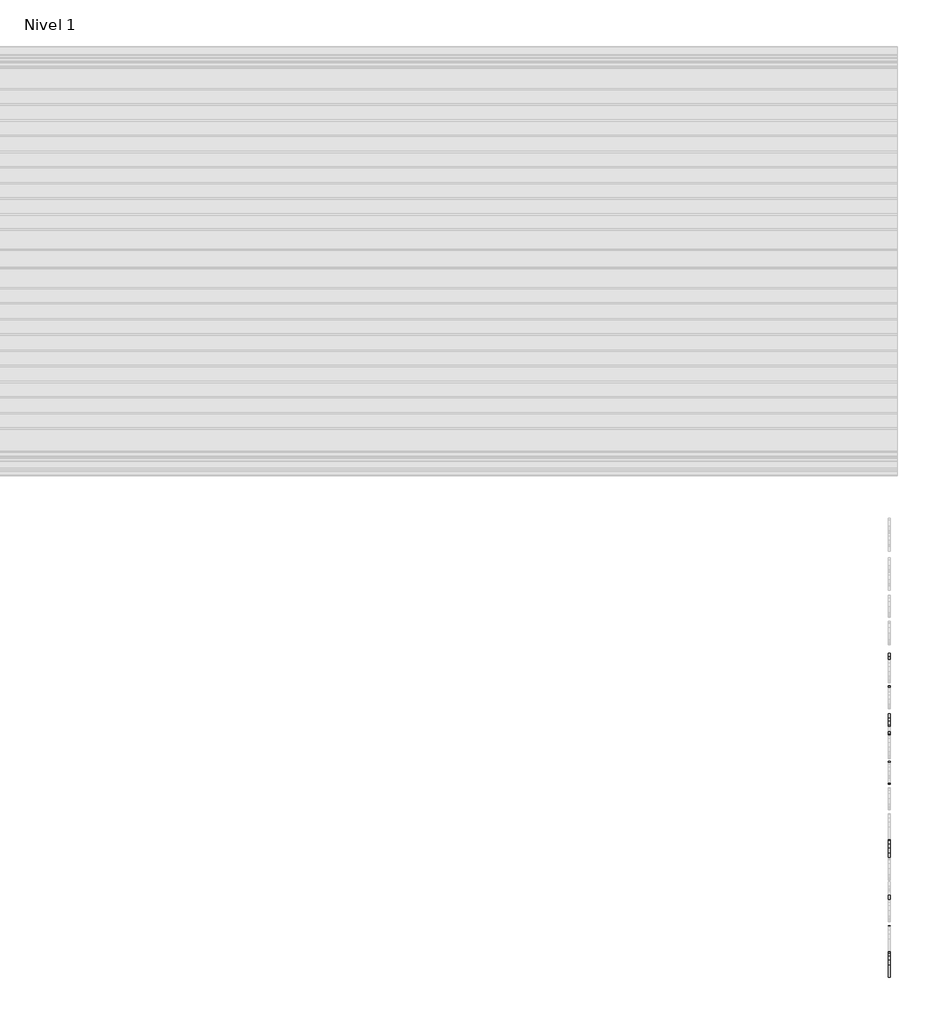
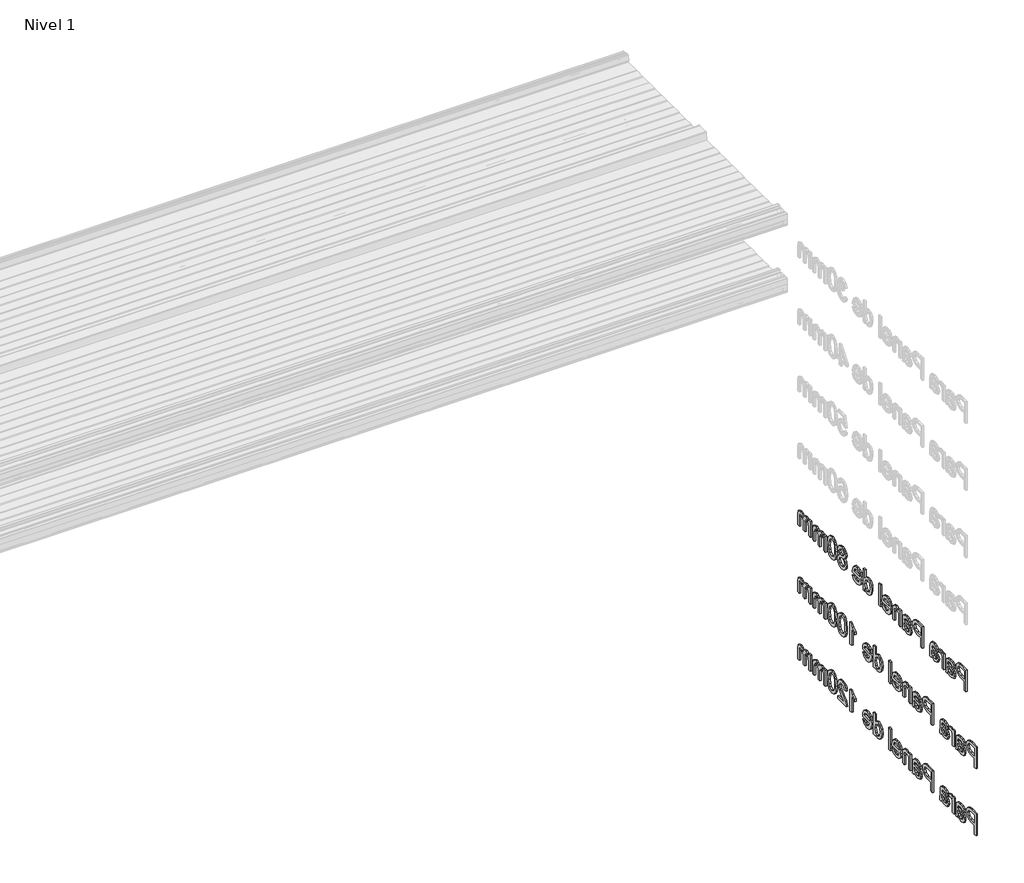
# One storey, part 3 of 3: 3 proxies.
"""IFC4 building model written with IfcOpenShell, lengths in millimetres."""

from ifc_helpers import new_model, si_unit, frame, origin, place, context, project, spatial, polyline, outline, extrude, element, save

model = new_model("IFC4")

# Units and contexts
model_context = context("Model", 3, world=origin())
ifc_project = project(units=[si_unit("LENGTHUNIT", "METRE", prefix="MILLI")], contexts=[model_context])

# Site, building, storey
site = spatial("IfcSite", under=ifc_project)
building = spatial("IfcBuilding", under=site)
storey = spatial("IfcBuildingStorey", under=building, Name="Nivel 1", Elevation=0.0)

# Proxies
placement = place(None, origin())
element("IfcBuildingElementProxy", 1, Name="100mm Arial", ObjectType="100mm Arial", at=placement, inside=storey, context=model_context, shape_type="SweptSolid", body=[
    extrude(outline(polyline([(14155.5279909, -1067.141573), (14155.5279909, -986.7765249), (14185.3117173, -986.7765249), (14197.3193856, -987.5417195), (14207.0805212, -991.2990209), (14213.4080915, -999.0686886), (14215.801777, -1010.026667), (14214.1855488, -1019.4984021), (14209.3368641, -1027.3906972), (14200.2697992, -1032.7176285), (14185.9984303, -1034.4932722), (14165.573622, -1034.4932722), (14165.573622, -1067.141573), (14155.5279909, -1067.141573)]), holes=[polyline([(14165.573622, -1024.4476412), (14186.5870415, -1024.4476412), (14201.3808028, -1020.7590111), (14205.756146, -1010.3798337), (14203.176067, -1002.0607955), (14196.3972281, -997.508869), (14186.351597, -996.8221559), (14165.573622, -996.8221559), (14165.573622, -1024.4476412)])]), frame((9557.0230098, 0.0, 0.0), z_axis=(1.0, 0.0, 0.0), x_axis=(0.0, 1.0, 0.0)), (0.0, 0.0, 1.0), 5.0),
    extrude(outline(polyline([(14266.0299321, -1059.6073498), (14256.2884169, -1066.4156192), (14245.5266422, -1068.3972769), (14230.9388949, -1063.6295263), (14225.847408, -1051.4452746), (14227.7702046, -1043.4990235), (14232.8224507, -1037.7306338), (14239.8563544, -1034.4344111), (14248.5481797, -1032.9236424), (14265.971071, -1029.4704567), (14266.0299321, -1027.2337342), (14263.2634595, -1019.8172332), (14252.1583283, -1016.913418), (14241.9949751, -1018.8460247), (14237.1487429, -1025.7033451), (14227.1031119, -1024.4476412), (14231.4490246, -1014.6374547), (14240.199711, -1008.8886854), (14253.453273, -1006.8677869), (14265.6277145, -1008.6532409), (14272.5046552, -1013.1364961), (14275.5850538, -1019.9545758), (14276.0755631, -1028.7445029), (14276.0755631, -1041.2426806), (14276.5856928, -1058.6950024), (14278.5869709, -1067.141573), (14268.5413399, -1067.141573), (14266.0299321, -1059.6073498)]), holes=[polyline([(14266.0299321, -1039.5160877), (14249.8235039, -1042.5964863), (14241.1807296, -1044.2249773), (14237.2664652, -1046.8737276), (14235.8930391, -1050.7389411), (14238.885146, -1056.1737845), (14247.6652629, -1058.3516459), (14257.8286162, -1055.9481502), (14264.3818208, -1050.1307096), (14265.971071, -1042.3610418), (14266.0299321, -1039.5160877)])]), frame((9557.0230098, 0.0, 0.0), z_axis=(1.0, 0.0, 0.0), x_axis=(0.0, 1.0, 0.0)), (0.0, 0.0, 1.0), 5.0),
    extrude(outline(polyline([(14289.8883058, -1067.141573), (14289.8883058, -1008.1234908), (14298.6782329, -1008.1234908), (14298.6782329, -1016.8545568), (14304.9175115, -1008.8102039), (14311.1960309, -1006.8677869), (14321.2809027, -1009.9678059), (14317.9258189, -1018.9735571), (14310.8624846, -1016.913418), (14305.1823866, -1018.8950756), (14301.5624277, -1024.3887801), (14299.9339368, -1036.1217632), (14299.9339368, -1067.141573), (14289.8883058, -1067.141573)])), frame((9557.0230098, 0.0, 0.0), z_axis=(1.0, 0.0, 0.0), x_axis=(0.0, 1.0, 0.0)), (0.0, 0.0, 1.0), 5.0),
    extrude(outline(polyline([(14365.2305384, -1059.6073498), (14355.4890231, -1066.4156192), (14344.7272485, -1068.3972769), (14330.1395011, -1063.6295263), (14325.0480143, -1051.4452746), (14326.9708109, -1043.4990235), (14332.023057, -1037.7306338), (14339.0569607, -1034.4344111), (14347.748786, -1032.9236424), (14365.1716773, -1029.4704567), (14365.2305384, -1027.2337342), (14362.4640658, -1019.8172332), (14351.3589346, -1016.913418), (14341.1955814, -1018.8460247), (14336.3493492, -1025.7033451), (14326.3037182, -1024.4476412), (14330.6496308, -1014.6374547), (14339.4003172, -1008.8886854), (14352.6538792, -1006.8677869), (14364.8283207, -1008.6532409), (14371.7052615, -1013.1364961), (14374.7856601, -1019.9545758), (14375.2761694, -1028.7445029), (14375.2761694, -1041.2426806), (14375.7862991, -1058.6950024), (14377.7875772, -1067.141573), (14367.7419461, -1067.141573), (14365.2305384, -1059.6073498)]), holes=[polyline([(14365.2305384, -1039.5160877), (14349.0241102, -1042.5964863), (14340.3813359, -1044.2249773), (14336.4670715, -1046.8737276), (14335.0936453, -1050.7389411), (14338.0857522, -1056.1737845), (14346.8658692, -1058.3516459), (14357.0292224, -1055.9481502), (14363.582427, -1050.1307096), (14365.1716773, -1042.3610418), (14365.2305384, -1039.5160877)])]), frame((9557.0230098, 0.0, 0.0), z_axis=(1.0, 0.0, 0.0), x_axis=(0.0, 1.0, 0.0)), (0.0, 0.0, 1.0), 5.0),
    extrude(outline(polyline([(14421.7372128, -1067.141573), (14421.7372128, -986.7765249), (14451.5209392, -986.7765249), (14463.5286075, -987.5417195), (14473.2897431, -991.2990209), (14479.6173134, -999.0686886), (14482.0109989, -1010.026667), (14480.3947707, -1019.4984021), (14475.546086, -1027.3906972), (14466.4790211, -1032.7176285), (14452.2076522, -1034.4932722), (14431.7828439, -1034.4932722), (14431.7828439, -1067.141573), (14421.7372128, -1067.141573)]), holes=[polyline([(14431.7828439, -1024.4476412), (14452.7962634, -1024.4476412), (14467.5900247, -1020.7590111), (14471.9653679, -1010.3798337), (14469.3852889, -1002.0607955), (14462.60645, -997.508869), (14452.5608189, -996.8221559), (14431.7828439, -996.8221559), (14431.7828439, -1024.4476412)])]), frame((9557.0230098, 0.0, 0.0), z_axis=(1.0, 0.0, 0.0), x_axis=(0.0, 1.0, 0.0)), (0.0, 0.0, 1.0), 5.0),
    extrude(outline(polyline([(14532.239154, -1059.6073498), (14522.4976388, -1066.4156192), (14511.7358641, -1068.3972769), (14497.1481168, -1063.6295263), (14492.0566299, -1051.4452746), (14493.9794265, -1043.4990235), (14499.0316726, -1037.7306338), (14506.0655763, -1034.4344111), (14514.7574016, -1032.9236424), (14532.1802929, -1029.4704567), (14532.239154, -1027.2337342), (14529.4726814, -1019.8172332), (14518.3675502, -1016.913418), (14508.204197, -1018.8460247), (14503.3579648, -1025.7033451), (14493.3123338, -1024.4476412), (14497.6582465, -1014.6374547), (14506.4089329, -1008.8886854), (14519.6624949, -1006.8677869), (14531.8369364, -1008.6532409), (14538.7138771, -1013.1364961), (14541.7942757, -1019.9545758), (14542.284785, -1028.7445029), (14542.284785, -1041.2426806), (14542.7949147, -1058.6950024), (14544.7961928, -1067.141573), (14534.7505618, -1067.141573), (14532.239154, -1059.6073498)]), holes=[polyline([(14532.239154, -1039.5160877), (14516.0327258, -1042.5964863), (14507.3899515, -1044.2249773), (14503.4756871, -1046.8737276), (14502.102261, -1050.7389411), (14505.0943679, -1056.1737845), (14513.8744848, -1058.3516459), (14524.0378381, -1055.9481502), (14530.5910427, -1050.1307096), (14532.1802929, -1042.3610418), (14532.239154, -1039.5160877)])]), frame((9557.0230098, 0.0, 0.0), z_axis=(1.0, 0.0, 0.0), x_axis=(0.0, 1.0, 0.0)), (0.0, 0.0, 1.0), 5.0),
    extrude(outline(polyline([(14556.0975277, -1067.141573), (14556.0975277, -1008.1234908), (14566.1431587, -1008.1234908), (14566.1431587, -1016.3640475), (14573.8245347, -1009.2418521), (14584.3116241, -1006.8677869), (14593.7980745, -1008.7807733), (14600.2727976, -1013.8035888), (14603.2845249, -1021.1906593), (14603.814275, -1030.902744), (14603.814275, -1067.141573), (14593.768644, -1067.141573), (14593.768644, -1032.2565497), (14592.611042, -1023.3685207), (14588.5201942, -1018.6694413), (14581.623633, -1016.913418), (14570.7245158, -1020.8571129), (14567.288498, -1026.5715466), (14566.1431587, -1035.8274576), (14566.1431587, -1067.141573), (14556.0975277, -1067.141573)])), frame((9557.0230098, 0.0, 0.0), z_axis=(1.0, 0.0, 0.0), x_axis=(0.0, 1.0, 0.0)), (0.0, 0.0, 1.0), 5.0),
    extrude(outline(polyline([(14658.9475233, -1049.5617188), (14668.7969506, -1050.8174226), (14659.5851855, -1063.7864892), (14642.4271692, -1068.3972769), (14630.6402301, -1066.4082616), (14621.5707126, -1060.4412156), (14615.7876077, -1050.8836414), (14613.859906, -1038.1230413), (14615.807228, -1024.9332455), (14621.6491941, -1015.0691029), (14630.5960842, -1008.9181159), (14641.8581784, -1006.8677869), (14652.7695584, -1008.9132108), (14661.4883616, -1015.0494825), (14667.2052478, -1024.8940047), (14669.1108766, -1038.0641801), (14669.0520155, -1040.7717916), (14623.905537, -1040.7717916), (14629.6837369, -1053.8193397), (14642.6233729, -1058.3516459), (14652.4728002, -1056.252266), (14658.9475233, -1049.5617188)]), holes=[polyline([(14623.905537, -1030.7261606), (14659.0652456, -1030.7261606), (14655.0430691, -1021.6223075), (14641.8189376, -1016.913418), (14629.4482924, -1020.6707194), (14623.905537, -1030.7261606)])]), frame((9557.0230098, 0.0, 0.0), z_axis=(1.0, 0.0, 0.0), x_axis=(0.0, 1.0, 0.0)), (0.0, 0.0, 1.0), 5.0),
    extrude(outline(polyline([(9562.0230098, 14689.2021386), (9562.0230098, 14679.1565076), (9557.0230098, 14679.1565076), (9557.0230098, 14689.2021386), (9562.0230098, 14689.2021386)])), frame((0.0, 0.0, -1067.141573), z_axis=(0.0, 0.0, 1.0), x_axis=(1.0, 0.0, 0.0)), (0.0, 0.0, 1.0), 80.3650481),
    extrude(outline(polyline([(14772.0785945, -1067.141573), (14772.0785945, -1057.6649328), (14765.4321931, -1065.7141909), (14756.2449534, -1068.3972769), (14743.8056369, -1064.512443), (14735.0157097, -1053.6721869), (14731.8960704, -1037.691393), (14734.7704551, -1021.700789), (14743.3837989, -1010.6937597), (14756.2057127, -1006.8677869), (14765.4665288, -1009.604829), (14772.0785945, -1016.7172142), (14772.0785945, -986.7765249), (14782.1242255, -986.7765249), (14782.1242255, -1067.141573), (14772.0785945, -1067.141573)]), holes=[polyline([(14741.9417014, -1037.6521523), (14746.4740076, -1053.201298), (14757.1671109, -1058.3516459), (14767.7326819, -1053.4367424), (14772.0785945, -1038.4173468), (14767.6542004, -1022.1128168), (14756.7550831, -1016.913418), (14746.179702, -1021.9068029), (14741.9417014, -1037.6521523)])]), frame((9557.0230098, 0.0, 0.0), z_axis=(1.0, 0.0, 0.0), x_axis=(0.0, 1.0, 0.0)), (0.0, 0.0, 1.0), 5.0),
    extrude(outline(polyline([(14838.5131777, -1049.5617188), (14848.362605, -1050.8174226), (14839.1508398, -1063.7864892), (14821.9928236, -1068.3972769), (14810.2058845, -1066.4082616), (14801.136367, -1060.4412156), (14795.353262, -1050.8836414), (14793.4255604, -1038.1230413), (14795.3728824, -1024.9332455), (14801.2148485, -1015.0691029), (14810.1617386, -1008.9181159), (14821.4238328, -1006.8677869), (14832.3352128, -1008.9132108), (14841.054016, -1015.0494825), (14846.7709022, -1024.8940047), (14848.676531, -1038.0641801), (14848.6176699, -1040.7717916), (14803.4711914, -1040.7717916), (14809.2493913, -1053.8193397), (14822.1890273, -1058.3516459), (14832.0384546, -1056.252266), (14838.5131777, -1049.5617188)]), holes=[polyline([(14803.4711914, -1030.7261606), (14838.6309, -1030.7261606), (14834.6087235, -1021.6223075), (14821.384592, -1016.913418), (14809.0139468, -1020.6707194), (14803.4711914, -1030.7261606)])]), frame((9557.0230098, 0.0, 0.0), z_axis=(1.0, 0.0, 0.0), x_axis=(0.0, 1.0, 0.0)), (0.0, 0.0, 1.0), 5.0),
    extrude(outline(polyline([(14902.2401495, -1022.8780114), (14893.0872454, -1016.6387327), (14890.1147589, -1006.9266481), (14891.7334397, -999.0735937), (14896.589482, -992.5841553), (14904.1384206, -988.2284325), (14913.83579, -986.7765249), (14923.5920205, -988.2627682), (14931.2390609, -992.721498), (14936.1833949, -999.3139433), (14937.8315062, -1007.2013333), (14934.8982605, -1016.6681633), (14926.0004213, -1022.8780114), (14936.6837144, -1030.7555912), (14940.342914, -1043.7540883), (14938.5280295, -1053.3582609), (14933.083376, -1061.2947019), (14924.6760461, -1066.6216331), (14913.9731326, -1068.3972769), (14903.2702191, -1066.6142755), (14894.8628892, -1061.2652713), (14889.4182357, -1053.2528014), (14887.6033512, -1043.4794031), (14891.4097035, -1030.1767902), (14902.2401495, -1022.8780114)]), holes=[polyline([(14897.6489822, -1043.1262364), (14899.3265241, -1050.6898902), (14905.2616869, -1056.3503678), (14914.0516141, -1058.3516459), (14926.0200416, -1054.1430759), (14930.297283, -1043.4401624), (14925.882699, -1032.5312349), (14913.7180677, -1028.2147528), (14901.8967929, -1032.4723738), (14897.6489822, -1043.1262364)]), polyline([(14900.1603899, -1007.2209537), (14903.7214876, -1015.1083436), (14914.0908548, -1018.1691218), (14924.2542081, -1015.127964), (14927.7858752, -1007.6722222), (14924.1364858, -999.9516054), (14913.9731326, -996.8221559), (14903.7803488, -999.8829341), (14900.1603899, -1007.2209537)])]), frame((9557.0230098, 0.0, 0.0), z_axis=(1.0, 0.0, 0.0), x_axis=(0.0, 1.0, 0.0)), (0.0, 0.0, 1.0), 5.0),
    extrude(outline(polyline([(14949.1328411, -1027.6065213), (14952.0857073, -1004.4839116), (14960.856014, -991.1518681), (14975.5026225, -986.7765249), (14987.2356056, -989.3664142), (14995.3388197, -996.8319661), (15000.0477093, -1008.7219122), (15001.872404, -1027.6065213), (14998.9489684, -1050.6310291), (14990.2080922, -1063.9925032), (14975.5026225, -1068.3972769), (14965.0645841, -1066.4842905), (14957.1379533, -1060.7453314), (14951.1341192, -1047.153318), (14949.1328411, -1027.6065213)]), holes=[polyline([(14959.1784721, -1027.5869009), (14960.3556945, -1043.3886589), (14963.8873617, -1052.5342053), (14975.5026225, -1058.3516459), (14987.1178834, -1052.5145849), (14990.6495506, -1043.3641334), (14991.8267729, -1027.5869009), (14990.6887913, -1012.1407622), (14987.2748464, -1002.924092), (14982.0263966, -998.3476399), (14975.3849003, -996.8221559), (14964.0443247, -1002.1981381), (14960.3949353, -1011.9887043), (14959.1784721, -1027.5869009)])]), frame((9557.0230098, 0.0, 0.0), z_axis=(1.0, 0.0, 0.0), x_axis=(0.0, 1.0, 0.0)), (0.0, 0.0, 1.0), 5.0),
    extrude(outline(polyline([(15013.1737388, -1067.141573), (15013.1737388, -1008.1234908), (15023.2193699, -1008.1234908), (15023.2193699, -1017.8355755), (15030.1257412, -1009.8795142), (15039.9555481, -1006.8677869), (15050.0207995, -1009.9383753), (15055.5537447, -1018.5419089), (15063.3920837, -1009.7863174), (15073.290562, -1006.8677869), (15086.4264017, -1011.7238293), (15091.0273792, -1026.6843637), (15091.0273792, -1067.141573), (15080.9817482, -1067.141573), (15080.9817482, -1031.0008458), (15080.0497805, -1022.6131363), (15076.6750763, -1018.4830478), (15070.9361172, -1016.913418), (15061.0572593, -1020.9355944), (15057.1233745, -1033.8261795), (15057.1233745, -1067.141573), (15047.0777435, -1067.141573), (15047.0777435, -1029.8824846), (15044.7527293, -1020.1507795), (15037.1302144, -1016.913418), (15029.694093, -1019.071659), (15024.749759, -1025.3894191), (15023.2193699, -1037.3774671), (15023.2193699, -1067.141573), (15013.1737388, -1067.141573)])), frame((9557.0230098, 0.0, 0.0), z_axis=(1.0, 0.0, 0.0), x_axis=(0.0, 1.0, 0.0)), (0.0, 0.0, 1.0), 5.0),
    extrude(outline(polyline([(15106.0958257, -1067.141573), (15106.0958257, -1008.1234908), (15116.1414568, -1008.1234908), (15116.1414568, -1017.8355755), (15123.0478281, -1009.8795142), (15132.877635, -1006.8677869), (15142.9428864, -1009.9383753), (15148.4758316, -1018.5419089), (15156.3141706, -1009.7863174), (15166.2126488, -1006.8677869), (15179.3484886, -1011.7238293), (15183.9494661, -1026.6843637), (15183.9494661, -1067.141573), (15173.9038351, -1067.141573), (15173.9038351, -1031.0008458), (15172.9718674, -1022.6131363), (15169.5971632, -1018.4830478), (15163.8582041, -1016.913418), (15153.9793462, -1020.9355944), (15150.0454614, -1033.8261795), (15150.0454614, -1067.141573), (15139.9998304, -1067.141573), (15139.9998304, -1029.8824846), (15137.6748162, -1020.1507795), (15130.0523013, -1016.913418), (15122.6161799, -1019.071659), (15117.6718458, -1025.3894191), (15116.1414568, -1037.3774671), (15116.1414568, -1067.141573), (15106.0958257, -1067.141573)])), frame((9557.0230098, 0.0, 0.0), z_axis=(1.0, 0.0, 0.0), x_axis=(0.0, 1.0, 0.0)), (0.0, 0.0, 1.0), 5.0),
])
element("IfcBuildingElementProxy", 2, Name="100mm Arial", ObjectType="100mm Arial", at=placement, inside=storey, context=model_context, shape_type="SweptSolid", body=[
    extrude(outline(polyline([(14093.998501, -1317.141573), (14093.998501, -1236.7765249), (14123.7822273, -1236.7765249), (14135.7898956, -1237.5417195), (14145.5510312, -1241.2990209), (14151.8786016, -1249.0686886), (14154.2722871, -1260.026667), (14152.6560588, -1269.4984021), (14147.8073741, -1277.3906972), (14138.7403092, -1282.7176285), (14124.4689404, -1284.4932722), (14104.044132, -1284.4932722), (14104.044132, -1317.141573), (14093.998501, -1317.141573)]), holes=[polyline([(14104.044132, -1274.4476412), (14125.0575516, -1274.4476412), (14139.8513129, -1270.7590111), (14144.2266561, -1260.3798337), (14141.646577, -1252.0607955), (14134.8677381, -1247.508869), (14124.8221071, -1246.8221559), (14104.044132, -1246.8221559), (14104.044132, -1274.4476412)])]), frame((9557.0230098, 0.0, 0.0), z_axis=(1.0, 0.0, 0.0), x_axis=(0.0, 1.0, 0.0)), (0.0, 0.0, 1.0), 5.0),
    extrude(outline(polyline([(14204.5004421, -1309.6073498), (14194.7589269, -1316.4156192), (14183.9971523, -1318.3972769), (14169.4094049, -1313.6295263), (14164.3179181, -1301.4452746), (14166.2407146, -1293.4990235), (14171.2929607, -1287.7306338), (14178.3268645, -1284.4344111), (14187.0186897, -1282.9236424), (14204.441581, -1279.4704567), (14204.5004421, -1277.2337342), (14201.7339695, -1269.8172332), (14190.6288384, -1266.913418), (14180.4654851, -1268.8460247), (14175.619253, -1275.7033451), (14165.573622, -1274.4476412), (14169.9195346, -1264.6374547), (14178.670221, -1258.8886854), (14191.923783, -1256.8677869), (14204.0982245, -1258.6532409), (14210.9751653, -1263.1364961), (14214.0555638, -1269.9545758), (14214.5460732, -1278.7445029), (14214.5460732, -1291.2426806), (14215.0562029, -1308.6950024), (14217.0574809, -1317.141573), (14207.0118499, -1317.141573), (14204.5004421, -1309.6073498)]), holes=[polyline([(14204.5004421, -1289.5160877), (14188.294014, -1292.5964863), (14179.6512396, -1294.2249773), (14175.7369752, -1296.8737276), (14174.3635491, -1300.7389411), (14177.355656, -1306.1737845), (14186.1357729, -1308.3516459), (14196.2991262, -1305.9481502), (14202.8523308, -1300.1307096), (14204.441581, -1292.3610418), (14204.5004421, -1289.5160877)])]), frame((9557.0230098, 0.0, 0.0), z_axis=(1.0, 0.0, 0.0), x_axis=(0.0, 1.0, 0.0)), (0.0, 0.0, 1.0), 5.0),
    extrude(outline(polyline([(14228.3588158, -1317.141573), (14228.3588158, -1258.1234908), (14237.1487429, -1258.1234908), (14237.1487429, -1266.8545568), (14243.3880216, -1258.8102039), (14249.666541, -1256.8677869), (14259.7514127, -1259.9678059), (14256.3963289, -1268.9735571), (14249.3329946, -1266.913418), (14243.6528966, -1268.8950756), (14240.0329378, -1274.3887801), (14238.4044468, -1286.1217632), (14238.4044468, -1317.141573), (14228.3588158, -1317.141573)])), frame((9557.0230098, 0.0, 0.0), z_axis=(1.0, 0.0, 0.0), x_axis=(0.0, 1.0, 0.0)), (0.0, 0.0, 1.0), 5.0),
    extrude(outline(polyline([(14303.7010484, -1309.6073498), (14293.9595332, -1316.4156192), (14283.1977586, -1318.3972769), (14268.6100112, -1313.6295263), (14263.5185244, -1301.4452746), (14265.4413209, -1293.4990235), (14270.493567, -1287.7306338), (14277.5274707, -1284.4344111), (14286.219296, -1282.9236424), (14303.6421873, -1279.4704567), (14303.7010484, -1277.2337342), (14300.9345758, -1269.8172332), (14289.8294447, -1266.913418), (14279.6660914, -1268.8460247), (14274.8198592, -1275.7033451), (14264.7742282, -1274.4476412), (14269.1201409, -1264.6374547), (14277.8708273, -1258.8886854), (14291.1243893, -1256.8677869), (14303.2988308, -1258.6532409), (14310.1757715, -1263.1364961), (14313.2561701, -1269.9545758), (14313.7466794, -1278.7445029), (14313.7466794, -1291.2426806), (14314.2568091, -1308.6950024), (14316.2580872, -1317.141573), (14306.2124562, -1317.141573), (14303.7010484, -1309.6073498)]), holes=[polyline([(14303.7010484, -1289.5160877), (14287.4946203, -1292.5964863), (14278.8518459, -1294.2249773), (14274.9375815, -1296.8737276), (14273.5641554, -1300.7389411), (14276.5562623, -1306.1737845), (14285.3363792, -1308.3516459), (14295.4997325, -1305.9481502), (14302.0529371, -1300.1307096), (14303.6421873, -1292.3610418), (14303.7010484, -1289.5160877)])]), frame((9557.0230098, 0.0, 0.0), z_axis=(1.0, 0.0, 0.0), x_axis=(0.0, 1.0, 0.0)), (0.0, 0.0, 1.0), 5.0),
    extrude(outline(polyline([(14360.2077229, -1317.141573), (14360.2077229, -1236.7765249), (14389.9914492, -1236.7765249), (14401.9991175, -1237.5417195), (14411.7602531, -1241.2990209), (14418.0878234, -1249.0686886), (14420.481509, -1260.026667), (14418.8652807, -1269.4984021), (14414.016596, -1277.3906972), (14404.9495311, -1282.7176285), (14390.6781623, -1284.4932722), (14370.2533539, -1284.4932722), (14370.2533539, -1317.141573), (14360.2077229, -1317.141573)]), holes=[polyline([(14370.2533539, -1274.4476412), (14391.2667735, -1274.4476412), (14406.0605348, -1270.7590111), (14410.4358779, -1260.3798337), (14407.8557989, -1252.0607955), (14401.07696, -1247.508869), (14391.031329, -1246.8221559), (14370.2533539, -1246.8221559), (14370.2533539, -1274.4476412)])]), frame((9557.0230098, 0.0, 0.0), z_axis=(1.0, 0.0, 0.0), x_axis=(0.0, 1.0, 0.0)), (0.0, 0.0, 1.0), 5.0),
    extrude(outline(polyline([(14470.709664, -1309.6073498), (14460.9681488, -1316.4156192), (14450.2063742, -1318.3972769), (14435.6186268, -1313.6295263), (14430.52714, -1301.4452746), (14432.4499365, -1293.4990235), (14437.5021826, -1287.7306338), (14444.5360864, -1284.4344111), (14453.2279116, -1282.9236424), (14470.6508029, -1279.4704567), (14470.709664, -1277.2337342), (14467.9431914, -1269.8172332), (14456.8380603, -1266.913418), (14446.674707, -1268.8460247), (14441.8284749, -1275.7033451), (14431.7828439, -1274.4476412), (14436.1287565, -1264.6374547), (14444.8794429, -1258.8886854), (14458.1330049, -1256.8677869), (14470.3074464, -1258.6532409), (14477.1843872, -1263.1364961), (14480.2647857, -1269.9545758), (14480.7552951, -1278.7445029), (14480.7552951, -1291.2426806), (14481.2654248, -1308.6950024), (14483.2667028, -1317.141573), (14473.2210718, -1317.141573), (14470.709664, -1309.6073498)]), holes=[polyline([(14470.709664, -1289.5160877), (14454.5032359, -1292.5964863), (14445.8604615, -1294.2249773), (14441.9461971, -1296.8737276), (14440.572771, -1300.7389411), (14443.5648779, -1306.1737845), (14452.3449948, -1308.3516459), (14462.5083481, -1305.9481502), (14469.0615527, -1300.1307096), (14470.6508029, -1292.3610418), (14470.709664, -1289.5160877)])]), frame((9557.0230098, 0.0, 0.0), z_axis=(1.0, 0.0, 0.0), x_axis=(0.0, 1.0, 0.0)), (0.0, 0.0, 1.0), 5.0),
    extrude(outline(polyline([(14494.5680377, -1317.141573), (14494.5680377, -1258.1234908), (14504.6136687, -1258.1234908), (14504.6136687, -1266.3640475), (14512.2950448, -1259.2418521), (14522.7821342, -1256.8677869), (14532.2685846, -1258.7807733), (14538.7433077, -1263.8035888), (14541.7550349, -1271.1906593), (14542.284785, -1280.902744), (14542.284785, -1317.141573), (14532.239154, -1317.141573), (14532.239154, -1282.2565497), (14531.081552, -1273.3685207), (14526.9907042, -1268.6694413), (14520.0941431, -1266.913418), (14509.1950258, -1270.8571129), (14505.759008, -1276.5715466), (14504.6136687, -1285.8274576), (14504.6136687, -1317.141573), (14494.5680377, -1317.141573)])), frame((9557.0230098, 0.0, 0.0), z_axis=(1.0, 0.0, 0.0), x_axis=(0.0, 1.0, 0.0)), (0.0, 0.0, 1.0), 5.0),
    extrude(outline(polyline([(14597.4180334, -1299.5617188), (14607.2674606, -1300.8174226), (14598.0556955, -1313.7864892), (14580.8976792, -1318.3972769), (14569.1107401, -1316.4082616), (14560.0412227, -1310.4412156), (14554.2581177, -1300.8836414), (14552.330416, -1288.1230413), (14554.2777381, -1274.9332455), (14560.1197041, -1265.0691029), (14569.0665943, -1258.9181159), (14580.3286884, -1256.8677869), (14591.2400684, -1258.9132108), (14599.9588717, -1265.0494825), (14605.6757579, -1274.8940047), (14607.5813866, -1288.0641801), (14607.5225255, -1290.7717916), (14562.3760471, -1290.7717916), (14568.1542469, -1303.8193397), (14581.093883, -1308.3516459), (14590.9433102, -1306.252266), (14597.4180334, -1299.5617188)]), holes=[polyline([(14562.3760471, -1280.7261606), (14597.5357556, -1280.7261606), (14593.5135791, -1271.6223075), (14580.2894477, -1266.913418), (14567.9188024, -1270.6707194), (14562.3760471, -1280.7261606)])]), frame((9557.0230098, 0.0, 0.0), z_axis=(1.0, 0.0, 0.0), x_axis=(0.0, 1.0, 0.0)), (0.0, 0.0, 1.0), 5.0),
    extrude(outline(polyline([(9562.0230098, 14627.6726486), (9562.0230098, 14617.6270176), (9557.0230098, 14617.6270176), (9557.0230098, 14627.6726486), (9562.0230098, 14627.6726486)])), frame((0.0, 0.0, -1317.141573), z_axis=(0.0, 0.0, 1.0), x_axis=(1.0, 0.0, 0.0)), (0.0, 0.0, 1.0), 80.3650481),
    extrude(outline(polyline([(14710.5491045, -1317.141573), (14710.5491045, -1307.6649328), (14703.9027031, -1315.7141909), (14694.7154634, -1318.3972769), (14682.2761469, -1314.512443), (14673.4862198, -1303.6721869), (14670.3665805, -1287.691393), (14673.2409651, -1271.700789), (14681.8543089, -1260.6937597), (14694.6762227, -1256.8677869), (14703.9370388, -1259.604829), (14710.5491045, -1266.7172142), (14710.5491045, -1236.7765249), (14720.5947355, -1236.7765249), (14720.5947355, -1317.141573), (14710.5491045, -1317.141573)]), holes=[polyline([(14680.4122115, -1287.6521523), (14684.9445177, -1303.201298), (14695.637621, -1308.3516459), (14706.2031919, -1303.4367424), (14710.5491045, -1288.4173468), (14706.1247104, -1272.1128168), (14695.2255931, -1266.913418), (14684.6502121, -1271.9068029), (14680.4122115, -1287.6521523)])]), frame((9557.0230098, 0.0, 0.0), z_axis=(1.0, 0.0, 0.0), x_axis=(0.0, 1.0, 0.0)), (0.0, 0.0, 1.0), 5.0),
    extrude(outline(polyline([(14776.9836878, -1299.5617188), (14786.833115, -1300.8174226), (14777.6213499, -1313.7864892), (14760.4633336, -1318.3972769), (14748.6763945, -1316.4082616), (14739.606877, -1310.4412156), (14733.8237721, -1300.8836414), (14731.8960704, -1288.1230413), (14733.8433925, -1274.9332455), (14739.6853585, -1265.0691029), (14748.6322487, -1258.9181159), (14759.8943428, -1256.8677869), (14770.8057228, -1258.9132108), (14779.5245261, -1265.0494825), (14785.2414123, -1274.8940047), (14787.147041, -1288.0641801), (14787.0881799, -1290.7717916), (14741.9417014, -1290.7717916), (14747.7199013, -1303.8193397), (14760.6595374, -1308.3516459), (14770.5089646, -1306.252266), (14776.9836878, -1299.5617188)]), holes=[polyline([(14741.9417014, -1280.7261606), (14777.10141, -1280.7261606), (14773.0792335, -1271.6223075), (14759.8551021, -1266.913418), (14747.4844568, -1270.6707194), (14741.9417014, -1280.7261606)])]), frame((9557.0230098, 0.0, 0.0), z_axis=(1.0, 0.0, 0.0), x_axis=(0.0, 1.0, 0.0)), (0.0, 0.0, 1.0), 5.0),
    extrude(outline(polyline([(14863.7449775, -1317.141573), (14853.6993465, -1317.141573), (14853.6993465, -1254.5133422), (14844.1834655, -1261.2921811), (14833.6080845, -1266.3640475), (14833.6080845, -1256.8677869), (14848.3331744, -1247.4696282), (14857.2702544, -1236.7765249), (14863.7449775, -1236.7765249), (14863.7449775, -1317.141573)])), frame((9557.0230098, 0.0, 0.0), z_axis=(1.0, 0.0, 0.0), x_axis=(0.0, 1.0, 0.0)), (0.0, 0.0, 1.0), 5.0),
    extrude(outline(polyline([(14887.6033512, -1277.6065213), (14890.5562173, -1254.4839116), (14899.3265241, -1241.1518681), (14913.9731326, -1236.7765249), (14925.7061157, -1239.3664142), (14933.8093298, -1246.8319661), (14938.5182193, -1258.7219122), (14940.342914, -1277.6065213), (14937.4194784, -1300.6310291), (14928.6786022, -1313.9925032), (14913.9731326, -1318.3972769), (14903.5350941, -1316.4842905), (14895.6084634, -1310.7453314), (14889.6046292, -1297.153318), (14887.6033512, -1277.6065213)]), holes=[polyline([(14897.6489822, -1277.5869009), (14898.8262046, -1293.3886589), (14902.3578717, -1302.5342053), (14913.9731326, -1308.3516459), (14925.5883934, -1302.5145849), (14929.1200606, -1293.3641334), (14930.297283, -1277.5869009), (14929.1593013, -1262.1407622), (14925.7453564, -1252.924092), (14920.4969066, -1248.3476399), (14913.8554103, -1246.8221559), (14902.5148347, -1252.1981381), (14898.8654453, -1261.9887043), (14897.6489822, -1277.5869009)])]), frame((9557.0230098, 0.0, 0.0), z_axis=(1.0, 0.0, 0.0), x_axis=(0.0, 1.0, 0.0)), (0.0, 0.0, 1.0), 5.0),
    extrude(outline(polyline([(14949.1328411, -1277.6065213), (14952.0857073, -1254.4839116), (14960.856014, -1241.1518681), (14975.5026225, -1236.7765249), (14987.2356056, -1239.3664142), (14995.3388197, -1246.8319661), (15000.0477093, -1258.7219122), (15001.872404, -1277.6065213), (14998.9489684, -1300.6310291), (14990.2080922, -1313.9925032), (14975.5026225, -1318.3972769), (14965.0645841, -1316.4842905), (14957.1379533, -1310.7453314), (14951.1341192, -1297.153318), (14949.1328411, -1277.6065213)]), holes=[polyline([(14959.1784721, -1277.5869009), (14960.3556945, -1293.3886589), (14963.8873617, -1302.5342053), (14975.5026225, -1308.3516459), (14987.1178834, -1302.5145849), (14990.6495506, -1293.3641334), (14991.8267729, -1277.5869009), (14990.6887913, -1262.1407622), (14987.2748464, -1252.924092), (14982.0263966, -1248.3476399), (14975.3849003, -1246.8221559), (14964.0443247, -1252.1981381), (14960.3949353, -1261.9887043), (14959.1784721, -1277.5869009)])]), frame((9557.0230098, 0.0, 0.0), z_axis=(1.0, 0.0, 0.0), x_axis=(0.0, 1.0, 0.0)), (0.0, 0.0, 1.0), 5.0),
    extrude(outline(polyline([(15013.1737388, -1317.141573), (15013.1737388, -1258.1234908), (15023.2193699, -1258.1234908), (15023.2193699, -1267.8355755), (15030.1257412, -1259.8795142), (15039.9555481, -1256.8677869), (15050.0207995, -1259.9383753), (15055.5537447, -1268.5419089), (15063.3920837, -1259.7863174), (15073.290562, -1256.8677869), (15086.4264017, -1261.7238293), (15091.0273792, -1276.6843637), (15091.0273792, -1317.141573), (15080.9817482, -1317.141573), (15080.9817482, -1281.0008458), (15080.0497805, -1272.6131363), (15076.6750763, -1268.4830478), (15070.9361172, -1266.913418), (15061.0572593, -1270.9355944), (15057.1233745, -1283.8261795), (15057.1233745, -1317.141573), (15047.0777435, -1317.141573), (15047.0777435, -1279.8824846), (15044.7527293, -1270.1507795), (15037.1302144, -1266.913418), (15029.694093, -1269.071659), (15024.749759, -1275.3894191), (15023.2193699, -1287.3774671), (15023.2193699, -1317.141573), (15013.1737388, -1317.141573)])), frame((9557.0230098, 0.0, 0.0), z_axis=(1.0, 0.0, 0.0), x_axis=(0.0, 1.0, 0.0)), (0.0, 0.0, 1.0), 5.0),
    extrude(outline(polyline([(15106.0958257, -1317.141573), (15106.0958257, -1258.1234908), (15116.1414568, -1258.1234908), (15116.1414568, -1267.8355755), (15123.0478281, -1259.8795142), (15132.877635, -1256.8677869), (15142.9428864, -1259.9383753), (15148.4758316, -1268.5419089), (15156.3141706, -1259.7863174), (15166.2126488, -1256.8677869), (15179.3484886, -1261.7238293), (15183.9494661, -1276.6843637), (15183.9494661, -1317.141573), (15173.9038351, -1317.141573), (15173.9038351, -1281.0008458), (15172.9718674, -1272.6131363), (15169.5971632, -1268.4830478), (15163.8582041, -1266.913418), (15153.9793462, -1270.9355944), (15150.0454614, -1283.8261795), (15150.0454614, -1317.141573), (15139.9998304, -1317.141573), (15139.9998304, -1279.8824846), (15137.6748162, -1270.1507795), (15130.0523013, -1266.913418), (15122.6161799, -1269.071659), (15117.6718458, -1275.3894191), (15116.1414568, -1287.3774671), (15116.1414568, -1317.141573), (15106.0958257, -1317.141573)])), frame((9557.0230098, 0.0, 0.0), z_axis=(1.0, 0.0, 0.0), x_axis=(0.0, 1.0, 0.0)), (0.0, 0.0, 1.0), 5.0),
])
element("IfcBuildingElementProxy", 3, Name="100mm Arial", ObjectType="100mm Arial", at=placement, inside=storey, context=model_context, shape_type="SweptSolid", body=[
    extrude(outline(polyline([(14093.998501, -1567.141573), (14093.998501, -1486.7765249), (14123.7822273, -1486.7765249), (14135.7898956, -1487.5417195), (14145.5510312, -1491.2990209), (14151.8786016, -1499.0686886), (14154.2722871, -1510.026667), (14152.6560588, -1519.4984021), (14147.8073741, -1527.3906972), (14138.7403092, -1532.7176285), (14124.4689404, -1534.4932722), (14104.044132, -1534.4932722), (14104.044132, -1567.141573), (14093.998501, -1567.141573)]), holes=[polyline([(14104.044132, -1524.4476412), (14125.0575516, -1524.4476412), (14139.8513129, -1520.7590111), (14144.2266561, -1510.3798337), (14141.646577, -1502.0607955), (14134.8677381, -1497.508869), (14124.8221071, -1496.8221559), (14104.044132, -1496.8221559), (14104.044132, -1524.4476412)])]), frame((9557.0230098, 0.0, 0.0), z_axis=(1.0, 0.0, 0.0), x_axis=(0.0, 1.0, 0.0)), (0.0, 0.0, 1.0), 5.0),
    extrude(outline(polyline([(14204.5004421, -1559.6073498), (14194.7589269, -1566.4156192), (14183.9971523, -1568.3972769), (14169.4094049, -1563.6295263), (14164.3179181, -1551.4452746), (14166.2407146, -1543.4990235), (14171.2929607, -1537.7306338), (14178.3268645, -1534.4344111), (14187.0186897, -1532.9236424), (14204.441581, -1529.4704567), (14204.5004421, -1527.2337342), (14201.7339695, -1519.8172332), (14190.6288384, -1516.913418), (14180.4654851, -1518.8460247), (14175.619253, -1525.7033451), (14165.573622, -1524.4476412), (14169.9195346, -1514.6374547), (14178.670221, -1508.8886854), (14191.923783, -1506.8677869), (14204.0982245, -1508.6532409), (14210.9751653, -1513.1364961), (14214.0555638, -1519.9545758), (14214.5460732, -1528.7445029), (14214.5460732, -1541.2426806), (14215.0562029, -1558.6950024), (14217.0574809, -1567.141573), (14207.0118499, -1567.141573), (14204.5004421, -1559.6073498)]), holes=[polyline([(14204.5004421, -1539.5160877), (14188.294014, -1542.5964863), (14179.6512396, -1544.2249773), (14175.7369752, -1546.8737276), (14174.3635491, -1550.7389411), (14177.355656, -1556.1737845), (14186.1357729, -1558.3516459), (14196.2991262, -1555.9481502), (14202.8523308, -1550.1307096), (14204.441581, -1542.3610418), (14204.5004421, -1539.5160877)])]), frame((9557.0230098, 0.0, 0.0), z_axis=(1.0, 0.0, 0.0), x_axis=(0.0, 1.0, 0.0)), (0.0, 0.0, 1.0), 5.0),
    extrude(outline(polyline([(14228.3588158, -1567.141573), (14228.3588158, -1508.1234908), (14237.1487429, -1508.1234908), (14237.1487429, -1516.8545568), (14243.3880216, -1508.8102039), (14249.666541, -1506.8677869), (14259.7514127, -1509.9678059), (14256.3963289, -1518.9735571), (14249.3329946, -1516.913418), (14243.6528966, -1518.8950756), (14240.0329378, -1524.3887801), (14238.4044468, -1536.1217632), (14238.4044468, -1567.141573), (14228.3588158, -1567.141573)])), frame((9557.0230098, 0.0, 0.0), z_axis=(1.0, 0.0, 0.0), x_axis=(0.0, 1.0, 0.0)), (0.0, 0.0, 1.0), 5.0),
    extrude(outline(polyline([(14303.7010484, -1559.6073498), (14293.9595332, -1566.4156192), (14283.1977586, -1568.3972769), (14268.6100112, -1563.6295263), (14263.5185244, -1551.4452746), (14265.4413209, -1543.4990235), (14270.493567, -1537.7306338), (14277.5274707, -1534.4344111), (14286.219296, -1532.9236424), (14303.6421873, -1529.4704567), (14303.7010484, -1527.2337342), (14300.9345758, -1519.8172332), (14289.8294447, -1516.913418), (14279.6660914, -1518.8460247), (14274.8198592, -1525.7033451), (14264.7742282, -1524.4476412), (14269.1201409, -1514.6374547), (14277.8708273, -1508.8886854), (14291.1243893, -1506.8677869), (14303.2988308, -1508.6532409), (14310.1757715, -1513.1364961), (14313.2561701, -1519.9545758), (14313.7466794, -1528.7445029), (14313.7466794, -1541.2426806), (14314.2568091, -1558.6950024), (14316.2580872, -1567.141573), (14306.2124562, -1567.141573), (14303.7010484, -1559.6073498)]), holes=[polyline([(14303.7010484, -1539.5160877), (14287.4946203, -1542.5964863), (14278.8518459, -1544.2249773), (14274.9375815, -1546.8737276), (14273.5641554, -1550.7389411), (14276.5562623, -1556.1737845), (14285.3363792, -1558.3516459), (14295.4997325, -1555.9481502), (14302.0529371, -1550.1307096), (14303.6421873, -1542.3610418), (14303.7010484, -1539.5160877)])]), frame((9557.0230098, 0.0, 0.0), z_axis=(1.0, 0.0, 0.0), x_axis=(0.0, 1.0, 0.0)), (0.0, 0.0, 1.0), 5.0),
    extrude(outline(polyline([(14360.2077229, -1567.141573), (14360.2077229, -1486.7765249), (14389.9914492, -1486.7765249), (14401.9991175, -1487.5417195), (14411.7602531, -1491.2990209), (14418.0878234, -1499.0686886), (14420.481509, -1510.026667), (14418.8652807, -1519.4984021), (14414.016596, -1527.3906972), (14404.9495311, -1532.7176285), (14390.6781623, -1534.4932722), (14370.2533539, -1534.4932722), (14370.2533539, -1567.141573), (14360.2077229, -1567.141573)]), holes=[polyline([(14370.2533539, -1524.4476412), (14391.2667735, -1524.4476412), (14406.0605348, -1520.7590111), (14410.4358779, -1510.3798337), (14407.8557989, -1502.0607955), (14401.07696, -1497.508869), (14391.031329, -1496.8221559), (14370.2533539, -1496.8221559), (14370.2533539, -1524.4476412)])]), frame((9557.0230098, 0.0, 0.0), z_axis=(1.0, 0.0, 0.0), x_axis=(0.0, 1.0, 0.0)), (0.0, 0.0, 1.0), 5.0),
    extrude(outline(polyline([(14470.709664, -1559.6073498), (14460.9681488, -1566.4156192), (14450.2063742, -1568.3972769), (14435.6186268, -1563.6295263), (14430.52714, -1551.4452746), (14432.4499365, -1543.4990235), (14437.5021826, -1537.7306338), (14444.5360864, -1534.4344111), (14453.2279116, -1532.9236424), (14470.6508029, -1529.4704567), (14470.709664, -1527.2337342), (14467.9431914, -1519.8172332), (14456.8380603, -1516.913418), (14446.674707, -1518.8460247), (14441.8284749, -1525.7033451), (14431.7828439, -1524.4476412), (14436.1287565, -1514.6374547), (14444.8794429, -1508.8886854), (14458.1330049, -1506.8677869), (14470.3074464, -1508.6532409), (14477.1843872, -1513.1364961), (14480.2647857, -1519.9545758), (14480.7552951, -1528.7445029), (14480.7552951, -1541.2426806), (14481.2654248, -1558.6950024), (14483.2667028, -1567.141573), (14473.2210718, -1567.141573), (14470.709664, -1559.6073498)]), holes=[polyline([(14470.709664, -1539.5160877), (14454.5032359, -1542.5964863), (14445.8604615, -1544.2249773), (14441.9461971, -1546.8737276), (14440.572771, -1550.7389411), (14443.5648779, -1556.1737845), (14452.3449948, -1558.3516459), (14462.5083481, -1555.9481502), (14469.0615527, -1550.1307096), (14470.6508029, -1542.3610418), (14470.709664, -1539.5160877)])]), frame((9557.0230098, 0.0, 0.0), z_axis=(1.0, 0.0, 0.0), x_axis=(0.0, 1.0, 0.0)), (0.0, 0.0, 1.0), 5.0),
    extrude(outline(polyline([(14494.5680377, -1567.141573), (14494.5680377, -1508.1234908), (14504.6136687, -1508.1234908), (14504.6136687, -1516.3640475), (14512.2950448, -1509.2418521), (14522.7821342, -1506.8677869), (14532.2685846, -1508.7807733), (14538.7433077, -1513.8035888), (14541.7550349, -1521.1906593), (14542.284785, -1530.902744), (14542.284785, -1567.141573), (14532.239154, -1567.141573), (14532.239154, -1532.2565497), (14531.081552, -1523.3685207), (14526.9907042, -1518.6694413), (14520.0941431, -1516.913418), (14509.1950258, -1520.8571129), (14505.759008, -1526.5715466), (14504.6136687, -1535.8274576), (14504.6136687, -1567.141573), (14494.5680377, -1567.141573)])), frame((9557.0230098, 0.0, 0.0), z_axis=(1.0, 0.0, 0.0), x_axis=(0.0, 1.0, 0.0)), (0.0, 0.0, 1.0), 5.0),
    extrude(outline(polyline([(14597.4180334, -1549.5617188), (14607.2674606, -1550.8174226), (14598.0556955, -1563.7864892), (14580.8976792, -1568.3972769), (14569.1107401, -1566.4082616), (14560.0412227, -1560.4412156), (14554.2581177, -1550.8836414), (14552.330416, -1538.1230413), (14554.2777381, -1524.9332455), (14560.1197041, -1515.0691029), (14569.0665943, -1508.9181159), (14580.3286884, -1506.8677869), (14591.2400684, -1508.9132108), (14599.9588717, -1515.0494825), (14605.6757579, -1524.8940047), (14607.5813866, -1538.0641801), (14607.5225255, -1540.7717916), (14562.3760471, -1540.7717916), (14568.1542469, -1553.8193397), (14581.093883, -1558.3516459), (14590.9433102, -1556.252266), (14597.4180334, -1549.5617188)]), holes=[polyline([(14562.3760471, -1530.7261606), (14597.5357556, -1530.7261606), (14593.5135791, -1521.6223075), (14580.2894477, -1516.913418), (14567.9188024, -1520.6707194), (14562.3760471, -1530.7261606)])]), frame((9557.0230098, 0.0, 0.0), z_axis=(1.0, 0.0, 0.0), x_axis=(0.0, 1.0, 0.0)), (0.0, 0.0, 1.0), 5.0),
    extrude(outline(polyline([(9562.0230098, 14627.6726486), (9562.0230098, 14617.6270176), (9557.0230098, 14617.6270176), (9557.0230098, 14627.6726486), (9562.0230098, 14627.6726486)])), frame((0.0, 0.0, -1567.141573), z_axis=(0.0, 0.0, 1.0), x_axis=(1.0, 0.0, 0.0)), (0.0, 0.0, 1.0), 80.3650481),
    extrude(outline(polyline([(14710.5491045, -1567.141573), (14710.5491045, -1557.6649328), (14703.9027031, -1565.7141909), (14694.7154634, -1568.3972769), (14682.2761469, -1564.512443), (14673.4862198, -1553.6721869), (14670.3665805, -1537.691393), (14673.2409651, -1521.700789), (14681.8543089, -1510.6937597), (14694.6762227, -1506.8677869), (14703.9370388, -1509.604829), (14710.5491045, -1516.7172142), (14710.5491045, -1486.7765249), (14720.5947355, -1486.7765249), (14720.5947355, -1567.141573), (14710.5491045, -1567.141573)]), holes=[polyline([(14680.4122115, -1537.6521523), (14684.9445177, -1553.201298), (14695.637621, -1558.3516459), (14706.2031919, -1553.4367424), (14710.5491045, -1538.4173468), (14706.1247104, -1522.1128168), (14695.2255931, -1516.913418), (14684.6502121, -1521.9068029), (14680.4122115, -1537.6521523)])]), frame((9557.0230098, 0.0, 0.0), z_axis=(1.0, 0.0, 0.0), x_axis=(0.0, 1.0, 0.0)), (0.0, 0.0, 1.0), 5.0),
    extrude(outline(polyline([(14776.9836878, -1549.5617188), (14786.833115, -1550.8174226), (14777.6213499, -1563.7864892), (14760.4633336, -1568.3972769), (14748.6763945, -1566.4082616), (14739.606877, -1560.4412156), (14733.8237721, -1550.8836414), (14731.8960704, -1538.1230413), (14733.8433925, -1524.9332455), (14739.6853585, -1515.0691029), (14748.6322487, -1508.9181159), (14759.8943428, -1506.8677869), (14770.8057228, -1508.9132108), (14779.5245261, -1515.0494825), (14785.2414123, -1524.8940047), (14787.147041, -1538.0641801), (14787.0881799, -1540.7717916), (14741.9417014, -1540.7717916), (14747.7199013, -1553.8193397), (14760.6595374, -1558.3516459), (14770.5089646, -1556.252266), (14776.9836878, -1549.5617188)]), holes=[polyline([(14741.9417014, -1530.7261606), (14777.10141, -1530.7261606), (14773.0792335, -1521.6223075), (14759.8551021, -1516.913418), (14747.4844568, -1520.6707194), (14741.9417014, -1530.7261606)])]), frame((9557.0230098, 0.0, 0.0), z_axis=(1.0, 0.0, 0.0), x_axis=(0.0, 1.0, 0.0)), (0.0, 0.0, 1.0), 5.0),
    extrude(outline(polyline([(14863.7449775, -1567.141573), (14853.6993465, -1567.141573), (14853.6993465, -1504.5133422), (14844.1834655, -1511.2921811), (14833.6080845, -1516.3640475), (14833.6080845, -1506.8677869), (14848.3331744, -1497.4696282), (14857.2702544, -1486.7765249), (14863.7449775, -1486.7765249), (14863.7449775, -1567.141573)])), frame((9557.0230098, 0.0, 0.0), z_axis=(1.0, 0.0, 0.0), x_axis=(0.0, 1.0, 0.0)), (0.0, 0.0, 1.0), 5.0),
    extrude(outline(polyline([(14939.0872101, -1557.095942), (14939.0872101, -1567.141573), (14886.3476473, -1567.141573), (14887.4267678, -1560.2155813), (14893.5287038, -1549.5519086), (14906.105363, -1537.9072171), (14923.4497728, -1521.1710389), (14927.7858752, -1509.7912225), (14923.6950274, -1500.5794574), (14913.0117343, -1496.8221559), (14901.8771726, -1500.4911657), (14897.6489822, -1510.6348986), (14887.6033512, -1509.3791947), (14890.03873, -1499.6622049), (14895.3043476, -1492.564535), (14903.1255188, -1488.2235274), (14913.2275584, -1486.7765249), (14923.4031744, -1488.3853955), (14931.2096303, -1493.2120073), (14936.1760373, -1500.4224944), (14937.8315062, -1509.182991), (14936.0460523, -1518.7086821), (14930.1108894, -1528.5581094), (14915.7193458, -1542.3218011), (14904.162946, -1551.9848348), (14899.6306399, -1557.095942), (14939.0872101, -1557.095942)])), frame((9557.0230098, 0.0, 0.0), z_axis=(1.0, 0.0, 0.0), x_axis=(0.0, 1.0, 0.0)), (0.0, 0.0, 1.0), 5.0),
    extrude(outline(polyline([(14949.1328411, -1527.6065213), (14952.0857073, -1504.4839116), (14960.856014, -1491.1518681), (14975.5026225, -1486.7765249), (14987.2356056, -1489.3664142), (14995.3388197, -1496.8319661), (15000.0477093, -1508.7219122), (15001.872404, -1527.6065213), (14998.9489684, -1550.6310291), (14990.2080922, -1563.9925032), (14975.5026225, -1568.3972769), (14965.0645841, -1566.4842905), (14957.1379533, -1560.7453314), (14951.1341192, -1547.153318), (14949.1328411, -1527.6065213)]), holes=[polyline([(14959.1784721, -1527.5869009), (14960.3556945, -1543.3886589), (14963.8873617, -1552.5342053), (14975.5026225, -1558.3516459), (14987.1178834, -1552.5145849), (14990.6495506, -1543.3641334), (14991.8267729, -1527.5869009), (14990.6887913, -1512.1407622), (14987.2748464, -1502.924092), (14982.0263966, -1498.3476399), (14975.3849003, -1496.8221559), (14964.0443247, -1502.1981381), (14960.3949353, -1511.9887043), (14959.1784721, -1527.5869009)])]), frame((9557.0230098, 0.0, 0.0), z_axis=(1.0, 0.0, 0.0), x_axis=(0.0, 1.0, 0.0)), (0.0, 0.0, 1.0), 5.0),
    extrude(outline(polyline([(15013.1737388, -1567.141573), (15013.1737388, -1508.1234908), (15023.2193699, -1508.1234908), (15023.2193699, -1517.8355755), (15030.1257412, -1509.8795142), (15039.9555481, -1506.8677869), (15050.0207995, -1509.9383753), (15055.5537447, -1518.5419089), (15063.3920837, -1509.7863174), (15073.290562, -1506.8677869), (15086.4264017, -1511.7238293), (15091.0273792, -1526.6843637), (15091.0273792, -1567.141573), (15080.9817482, -1567.141573), (15080.9817482, -1531.0008458), (15080.0497805, -1522.6131363), (15076.6750763, -1518.4830478), (15070.9361172, -1516.913418), (15061.0572593, -1520.9355944), (15057.1233745, -1533.8261795), (15057.1233745, -1567.141573), (15047.0777435, -1567.141573), (15047.0777435, -1529.8824846), (15044.7527293, -1520.1507795), (15037.1302144, -1516.913418), (15029.694093, -1519.071659), (15024.749759, -1525.3894191), (15023.2193699, -1537.3774671), (15023.2193699, -1567.141573), (15013.1737388, -1567.141573)])), frame((9557.0230098, 0.0, 0.0), z_axis=(1.0, 0.0, 0.0), x_axis=(0.0, 1.0, 0.0)), (0.0, 0.0, 1.0), 5.0),
    extrude(outline(polyline([(15106.0958257, -1567.141573), (15106.0958257, -1508.1234908), (15116.1414568, -1508.1234908), (15116.1414568, -1517.8355755), (15123.0478281, -1509.8795142), (15132.877635, -1506.8677869), (15142.9428864, -1509.9383753), (15148.4758316, -1518.5419089), (15156.3141706, -1509.7863174), (15166.2126488, -1506.8677869), (15179.3484886, -1511.7238293), (15183.9494661, -1526.6843637), (15183.9494661, -1567.141573), (15173.9038351, -1567.141573), (15173.9038351, -1531.0008458), (15172.9718674, -1522.6131363), (15169.5971632, -1518.4830478), (15163.8582041, -1516.913418), (15153.9793462, -1520.9355944), (15150.0454614, -1533.8261795), (15150.0454614, -1567.141573), (15139.9998304, -1567.141573), (15139.9998304, -1529.8824846), (15137.6748162, -1520.1507795), (15130.0523013, -1516.913418), (15122.6161799, -1519.071659), (15117.6718458, -1525.3894191), (15116.1414568, -1537.3774671), (15116.1414568, -1567.141573), (15106.0958257, -1567.141573)])), frame((9557.0230098, 0.0, 0.0), z_axis=(1.0, 0.0, 0.0), x_axis=(0.0, 1.0, 0.0)), (0.0, 0.0, 1.0), 5.0),
])

save(model, "model.ifc")
